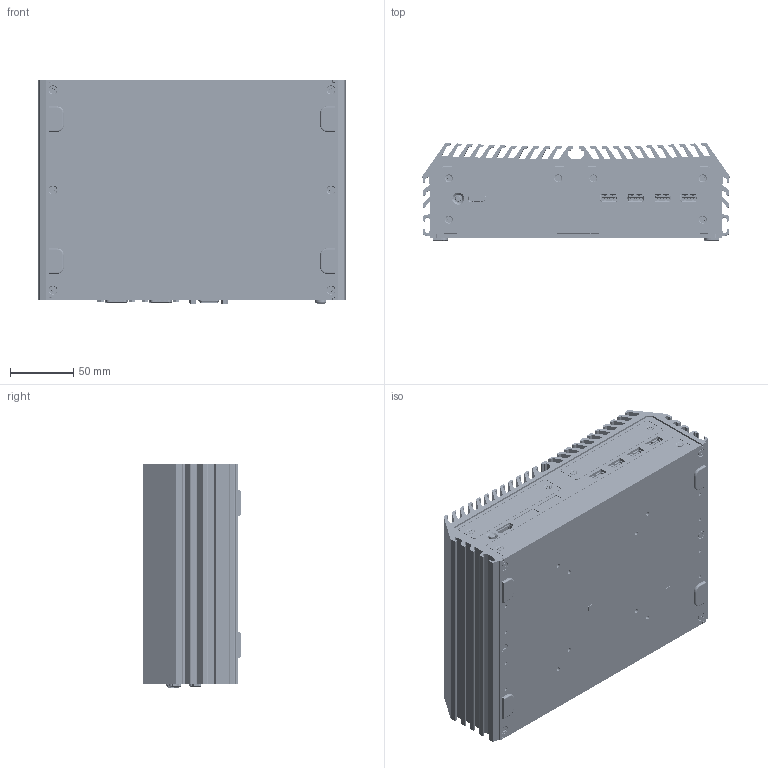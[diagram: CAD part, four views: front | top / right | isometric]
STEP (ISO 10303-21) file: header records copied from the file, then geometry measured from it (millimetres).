
FILE_DESCRIPTION (( 'STEP AP203' ), '1' );
FILE_NAME ('DX-1300-V0.1_20250821.STEP', '2025-08-21T09:22:55', ( 'twadmin' ), ( '' ), 'SwSTEP 2.0', 'SolidWorks 2014', '' );
FILE_SCHEMA (( 'CONFIG_CONTROL_DESIGN' ));
Length unit declared in the file: millimetre
Products named in the file (29): RJ45+USB3.0x2_三層_JFM38U1B_B313_4F(23-D0202300320); Symbol_Panel(M0-ZZZZ5C3003); Terminal Block_ECH350R-04P(23-D0341500040); PWR_BTN_TC003; Bottom Cover(M1-408100011100); DX-1300-V0.1_20250821; WHDM-19FLBSDR; Audio Jack_雙層_T-A032134001(23-D0262300090); Main Bracket(M1-108130053400); Front Bezel(M1-408120024100); P頭_M5x8(十字)(太陽華司)(M3-SCREAB00002) ; Copper Stud_S38400B25N01(M3-COSD6L00000); F頭_M3x18(T10)(120)+溝槽_黑(M3-1103182270); D-SUB 9_雙層_D20H1P1PA112A111N2(23-D0101100181); Front Matching Bezel(M1-408130084100); Top Cove(M1-408130006300); D-SUB 15_D330H1S1X22121N0(23-D0102400150); Top Cover; USB3.0_SMT_122-0921NA0504(23-S0142300090); Hole_Plug_M06V0(M4-RUBR0100004); Rear Bezel(M1-408130034100); Rubber Foot(M4-RUFT0100001); Main Board; DC_IN1_5EHDRM-03P_8(23-D0341500030); Small Matching Bezel(M1-413100084102); F頭_M3x5(T10)(120)_黑(M3-N103052230); F頭_M3X8(T10)(90)_黑(M3-N103082260); DP1_Displayport_(23-D0242300200); Terminal Block_ECH350R-02P(23-D0341500020)
Assembly tree (63 placements, depth 3):
  DX-1300-V0.1_20250821
    Top Cove(M1-408130006300)
      Top Cover
    Bottom Cover(M1-408100011100)
    Main Bracket(M1-108130053400)
    Front Bezel(M1-408120024100)
    Rear Bezel(M1-408130034100)
    Front Matching Bezel(M1-408130084100)
    Small Matching Bezel(M1-413100084102)  x4
    Main Board
      DP1_Displayport_(23-D0242300200)
      PWR_BTN_TC003
      Terminal Block_ECH350R-02P(23-D0341500020)
      Audio Jack_雙層_T-A032134001(23-D0262300090)
      D-SUB 9_雙層_D20H1P1PA112A111N2(23-D0101100181)  x2
      Terminal Block_ECH350R-04P(23-D0341500040)
      D-SUB 15_D330H1S1X22121N0(23-D0102400150)
      RJ45+USB3.0x2_三層_JFM38U1B_B313_4F(23-D0202300320)  x2
      DC_IN1_5EHDRM-03P_8(23-D0341500030)
      USB3.0_SMT_122-0921NA0504(23-S0142300090)  x4
      WHDM-19FLBSDR
    Copper Stud_S38400B25N01(M3-COSD6L00000)  x10
    F頭_M3x5(T10)(120)_黑(M3-N103052230)  x8
    F頭_M3X8(T10)(90)_黑(M3-N103082260)  x6
    F頭_M3x18(T10)(120)+溝槽_黑(M3-1103182270)  x2
    P頭_M5x8(十字)(太陽華司)(M3-SCREAB00002) 
    Hole_Plug_M06V0(M4-RUBR0100004)  x3
    Rubber Foot(M4-RUFT0100001)  x4
    Symbol_Panel(M0-ZZZZ5C3003)
Bounding box: 242.18 x 77.23 x 176.1 mm (x, y, z)
Volume: 822384.6 mm3; surface area: 579429.2 mm2
Topology: 100 solids, 250 shells, 21207 faces, 60349 edges, 39173 vertices
Faces by surface type: plane 12769, cylinder 6734, bspline 1107, cone 447, torus 150
Entity records: 425389 total; most frequent: CARTESIAN_POINT 127685, ORIENTED_EDGE 64717, DIRECTION 55222, EDGE_CURVE 32998, VECTOR 21972, LINE 21972, VERTEX_POINT 21539, AXIS2_PLACEMENT_3D 16625
